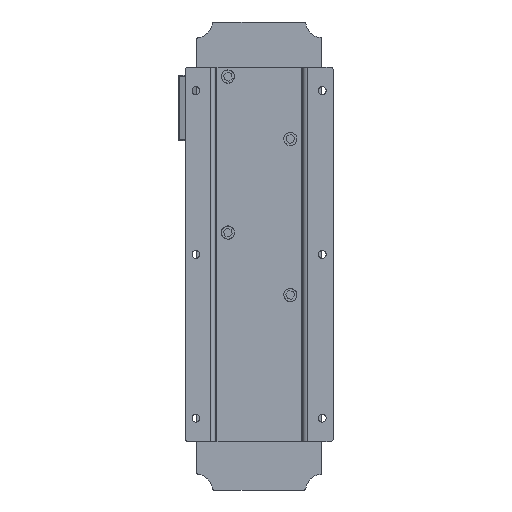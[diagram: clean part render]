
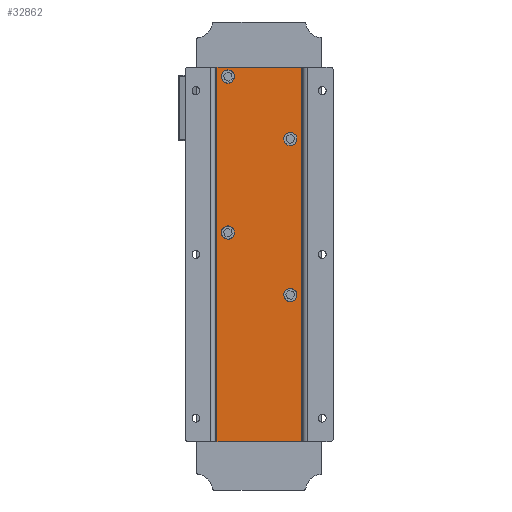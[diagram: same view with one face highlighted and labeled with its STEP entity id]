
A CAD part, left-side view. The second image highlights one B-rep face of the part: STEP entity #32862.
In plain terms, the highlighted planar face has unit normal (-1, 0, 0) as drawn and (0, 0, -1) by its records, which use the part's own axes.
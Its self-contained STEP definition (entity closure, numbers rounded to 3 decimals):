
#17 = AXIS2_PLACEMENT_3D ( 'NONE', #36232, #1577, #25510 ) ;
#1046 = DIRECTION ( 'NONE',  ( 0., -1., 0. ) ) ;
#1577 = DIRECTION ( 'NONE',  ( 0., 0., 1. ) ) ;
#2292 = ORIENTED_EDGE ( 'NONE', *, *, #29643, .F. ) ;
#2358 = VERTEX_POINT ( 'NONE', #16224 ) ;
#2390 = FACE_BOUND ( 'NONE', #15565, .T. ) ;
#2617 = ORIENTED_EDGE ( 'NONE', *, *, #29420, .T. ) ;
#2762 = CIRCLE ( 'NONE', #17, 3.25 ) ;
#3080 = EDGE_CURVE ( 'NONE', #30948, #17013, #38321, .T. ) ;
#3388 = CIRCLE ( 'NONE', #22880, 3.25 ) ;
#3803 = VERTEX_POINT ( 'NONE', #20355 ) ;
#4123 = ORIENTED_EDGE ( 'NONE', *, *, #36335, .F. ) ;
#5305 = EDGE_LOOP ( 'NONE', ( #4123, #2292, #13110, #16212 ) ) ;
#5552 = EDGE_CURVE ( 'NONE', #13189, #37758, #30929, .T. ) ;
#5946 = DIRECTION ( 'NONE',  ( 0., 0., 1. ) ) ;
#6396 = CARTESIAN_POINT ( 'NONE',  ( -14., 20., -2. ) ) ;
#6445 = CARTESIAN_POINT ( 'NONE',  ( 22.75, -20., -2. ) ) ;
#6659 = CIRCLE ( 'NONE', #38741, 3.25 ) ;
#6812 = EDGE_CURVE ( 'NONE', #42450, #13468, #6659, .T. ) ;
#7189 = DIRECTION ( 'NONE',  ( 1., 0., 0. ) ) ;
#7550 = AXIS2_PLACEMENT_3D ( 'NONE', #22421, #42303, #22204 ) ;
#7786 = CARTESIAN_POINT ( 'NONE',  ( 26., -20., -2. ) ) ;
#7953 = EDGE_CURVE ( 'NONE', #36241, #2358, #18352, .T. ) ;
#8373 = CARTESIAN_POINT ( 'NONE',  ( 120., 27., -2. ) ) ;
#8463 = CARTESIAN_POINT ( 'NONE',  ( -114., 20., -2. ) ) ;
#9079 = CARTESIAN_POINT ( 'NONE',  ( 29.25, -20., -2. ) ) ;
#9365 = FACE_BOUND ( 'NONE', #15245, .T. ) ;
#9406 = VECTOR ( 'NONE', #16952, 1000. ) ;
#9559 = CARTESIAN_POINT ( 'NONE',  ( -110.75, 20., -2. ) ) ;
#9683 = VECTOR ( 'NONE', #14545, 1000. ) ;
#9823 = VERTEX_POINT ( 'NONE', #34703 ) ;
#10352 = VERTEX_POINT ( 'NONE', #8373 ) ;
#10468 = CARTESIAN_POINT ( 'NONE',  ( -114., 20., -2. ) ) ;
#11813 = DIRECTION ( 'NONE',  ( 1., 0., 0. ) ) ;
#13110 = ORIENTED_EDGE ( 'NONE', *, *, #42186, .F. ) ;
#13116 = CIRCLE ( 'NONE', #27748, 3.25 ) ;
#13186 = EDGE_LOOP ( 'NONE', ( #16321, #37225 ) ) ;
#13189 = VERTEX_POINT ( 'NONE', #9559 ) ;
#13468 = VERTEX_POINT ( 'NONE', #41609 ) ;
#13587 = DIRECTION ( 'NONE',  ( 1., 0., 0. ) ) ;
#13709 = DIRECTION ( 'NONE',  ( 1., 0., 0. ) ) ;
#13884 = VERTEX_POINT ( 'NONE', #28698 ) ;
#14541 = ORIENTED_EDGE ( 'NONE', *, *, #6812, .T. ) ;
#14545 = DIRECTION ( 'NONE',  ( -1., 0., 0. ) ) ;
#14737 = EDGE_LOOP ( 'NONE', ( #2617, #14541 ) ) ;
#14768 = CARTESIAN_POINT ( 'NONE',  ( 120., 27., -2. ) ) ;
#15245 = EDGE_LOOP ( 'NONE', ( #41213, #21571 ) ) ;
#15482 = CIRCLE ( 'NONE', #21036, 3.25 ) ;
#15565 = EDGE_LOOP ( 'NONE', ( #34353, #20282 ) ) ;
#15703 = FACE_OUTER_BOUND ( 'NONE', #5305, .T. ) ;
#16212 = ORIENTED_EDGE ( 'NONE', *, *, #7953, .F. ) ;
#16224 = CARTESIAN_POINT ( 'NONE',  ( 120., -27., -2. ) ) ;
#16321 = ORIENTED_EDGE ( 'NONE', *, *, #39450, .T. ) ;
#16952 = DIRECTION ( 'NONE',  ( 0., 1., 0. ) ) ;
#17013 = VERTEX_POINT ( 'NONE', #6445 ) ;
#17170 = CARTESIAN_POINT ( 'NONE',  ( 120., -27., -2. ) ) ;
#17198 = DIRECTION ( 'NONE',  ( 0., 0., 1. ) ) ;
#18282 = DIRECTION ( 'NONE',  ( 1., 0., 0. ) ) ;
#18352 = LINE ( 'NONE', #27754, #19474 ) ;
#19258 = DIRECTION ( 'NONE',  ( 1., 0., 0. ) ) ;
#19474 = VECTOR ( 'NONE', #11813, 1000. ) ;
#20282 = ORIENTED_EDGE ( 'NONE', *, *, #29125, .T. ) ;
#20355 = CARTESIAN_POINT ( 'NONE',  ( -17.25, 20., -2. ) ) ;
#21036 = AXIS2_PLACEMENT_3D ( 'NONE', #29108, #5946, #19258 ) ;
#21571 = ORIENTED_EDGE ( 'NONE', *, *, #31882, .T. ) ;
#22204 = DIRECTION ( 'NONE',  ( 1., 0., 0. ) ) ;
#22263 = AXIS2_PLACEMENT_3D ( 'NONE', #7786, #17198, #13709 ) ;
#22415 = DIRECTION ( 'NONE',  ( 1., 0., 0. ) ) ;
#22421 = CARTESIAN_POINT ( 'NONE',  ( -74., -20., -2. ) ) ;
#22568 = CARTESIAN_POINT ( 'NONE',  ( -77.25, -20., -2. ) ) ;
#22880 = AXIS2_PLACEMENT_3D ( 'NONE', #10468, #37120, #7189 ) ;
#24162 = CARTESIAN_POINT ( 'NONE',  ( -120., -27., -2. ) ) ;
#24364 = LINE ( 'NONE', #14768, #9683 ) ;
#25510 = DIRECTION ( 'NONE',  ( 1., 0., 0. ) ) ;
#25729 = FACE_BOUND ( 'NONE', #14737, .T. ) ;
#27748 = AXIS2_PLACEMENT_3D ( 'NONE', #6396, #29778, #13587 ) ;
#27754 = CARTESIAN_POINT ( 'NONE',  ( 120., -27., -2. ) ) ;
#28134 = DIRECTION ( 'NONE',  ( 0., 0., 1. ) ) ;
#28633 = EDGE_CURVE ( 'NONE', #3803, #9823, #13116, .T. ) ;
#28698 = CARTESIAN_POINT ( 'NONE',  ( -120., 27., -2. ) ) ;
#28932 = CARTESIAN_POINT ( 'NONE',  ( -117.25, 20., -2. ) ) ;
#29045 = DIRECTION ( 'NONE',  ( 0., 0., 1. ) ) ;
#29108 = CARTESIAN_POINT ( 'NONE',  ( -14., 20., -2. ) ) ;
#29125 = EDGE_CURVE ( 'NONE', #37758, #13189, #3388, .T. ) ;
#29420 = EDGE_CURVE ( 'NONE', #13468, #42450, #40338, .T. ) ;
#29643 = EDGE_CURVE ( 'NONE', #10352, #13884, #24364, .T. ) ;
#29778 = DIRECTION ( 'NONE',  ( 0., 0., 1. ) ) ;
#30508 = LINE ( 'NONE', #17170, #9406 ) ;
#30929 = CIRCLE ( 'NONE', #35782, 3.25 ) ;
#30948 = VERTEX_POINT ( 'NONE', #9079 ) ;
#31882 = EDGE_CURVE ( 'NONE', #17013, #30948, #2762, .T. ) ;
#32314 = PLANE ( 'NONE',  #34937 ) ;
#32862 = ADVANCED_FACE ( 'NONE', ( #2390, #25729, #38855, #9365, #15703 ), #32314, .F. ) ;
#33172 = CARTESIAN_POINT ( 'NONE',  ( -120., -27., -2. ) ) ;
#33808 = LINE ( 'NONE', #24162, #35053 ) ;
#34353 = ORIENTED_EDGE ( 'NONE', *, *, #5552, .T. ) ;
#34703 = CARTESIAN_POINT ( 'NONE',  ( -10.75, 20., -2. ) ) ;
#34937 = AXIS2_PLACEMENT_3D ( 'NONE', #35374, #29045, #42322 ) ;
#35053 = VECTOR ( 'NONE', #1046, 1000. ) ;
#35374 = CARTESIAN_POINT ( 'NONE',  ( 0., 0., -2. ) ) ;
#35782 = AXIS2_PLACEMENT_3D ( 'NONE', #8463, #28134, #18282 ) ;
#36232 = CARTESIAN_POINT ( 'NONE',  ( 26., -20., -2. ) ) ;
#36241 = VERTEX_POINT ( 'NONE', #33172 ) ;
#36335 = EDGE_CURVE ( 'NONE', #13884, #36241, #33808, .T. ) ;
#37120 = DIRECTION ( 'NONE',  ( 0., 0., 1. ) ) ;
#37225 = ORIENTED_EDGE ( 'NONE', *, *, #28633, .T. ) ;
#37758 = VERTEX_POINT ( 'NONE', #28932 ) ;
#38321 = CIRCLE ( 'NONE', #22263, 3.25 ) ;
#38741 = AXIS2_PLACEMENT_3D ( 'NONE', #39034, #39248, #22415 ) ;
#38855 = FACE_BOUND ( 'NONE', #13186, .T. ) ;
#39034 = CARTESIAN_POINT ( 'NONE',  ( -74., -20., -2. ) ) ;
#39248 = DIRECTION ( 'NONE',  ( 0., 0., 1. ) ) ;
#39450 = EDGE_CURVE ( 'NONE', #9823, #3803, #15482, .T. ) ;
#40338 = CIRCLE ( 'NONE', #7550, 3.25 ) ;
#41213 = ORIENTED_EDGE ( 'NONE', *, *, #3080, .T. ) ;
#41609 = CARTESIAN_POINT ( 'NONE',  ( -70.75, -20., -2. ) ) ;
#42186 = EDGE_CURVE ( 'NONE', #2358, #10352, #30508, .T. ) ;
#42303 = DIRECTION ( 'NONE',  ( 0., 0., 1. ) ) ;
#42322 = DIRECTION ( 'NONE',  ( 1., 0., 0. ) ) ;
#42450 = VERTEX_POINT ( 'NONE', #22568 ) ;
